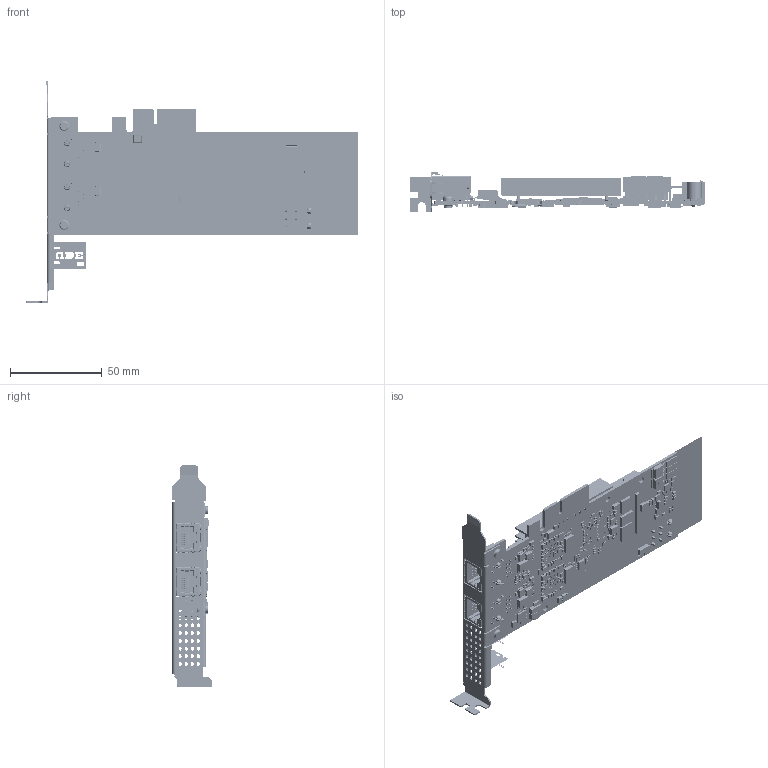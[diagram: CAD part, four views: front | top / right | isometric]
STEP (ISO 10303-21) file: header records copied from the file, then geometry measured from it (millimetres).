
FILE_DESCRIPTION((''),'2;1');
FILE_NAME('DE-20-051857_ASM','2026-05-09T13:42:19',('wuxin28'),(''),'CREO PARAMETRIC BY PTC INC, 2020044','CREO PARAMETRIC BY PTC INC, 2020044','');
FILE_SCHEMA(('CONFIG_CONTROL_DESIGN'));
Products named in the file (13): DE-11-047829; MV-20675; PCB-MV-GT2102BG-ZJ_ASM; DE-15-008162; YB4007-CS-00_1; YB4007-GAI_5__2; DE-20-050020_ASM; DE-19-014530; 101800719_ASM; SC-P0M3X4-GB818; SC-PM2X4_5NL-B; SC-T1M2X3NL-B; DE-20-051857_ASM
Assembly tree (16 placements, depth 4):
  DE-20-051857_ASM
    DE-11-047829
    PCB-MV-GT2102BG-ZJ_ASM
      MV-20675
    DE-15-008162
    101800719_ASM
      DE-20-050020_ASM
        YB4007-CS-00_1
        YB4007-GAI_5__2
      DE-19-014530
    SC-P0M3X4-GB818  x2
    SC-PM2X4_5NL-B  x2
    SC-T1M2X3NL-B  x3
Bounding box: 180.91 x 21.59 x 120.82 mm (x, y, z)
Volume: 48076 mm3; surface area: 88389.3 mm2
Topology: 53 solids, 92 shells, 16228 faces, 43577 edges, 28474 vertices
Faces by surface type: plane 12935, cylinder 2719, sphere 214, bspline 206, torus 92, cone 61, extrusion 1
Entity records: 507391 total; most frequent: CARTESIAN_POINT 100330, ORIENTED_EDGE 85765, DIRECTION 79555, EDGE_CURVE 43111, VECTOR 36863, LINE 36862, VERTEX_POINT 28194, AXIS2_PLACEMENT_3D 21346
